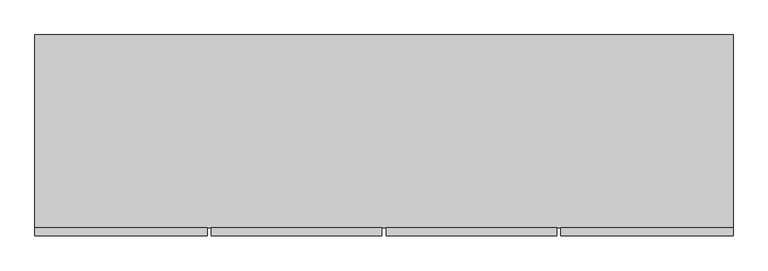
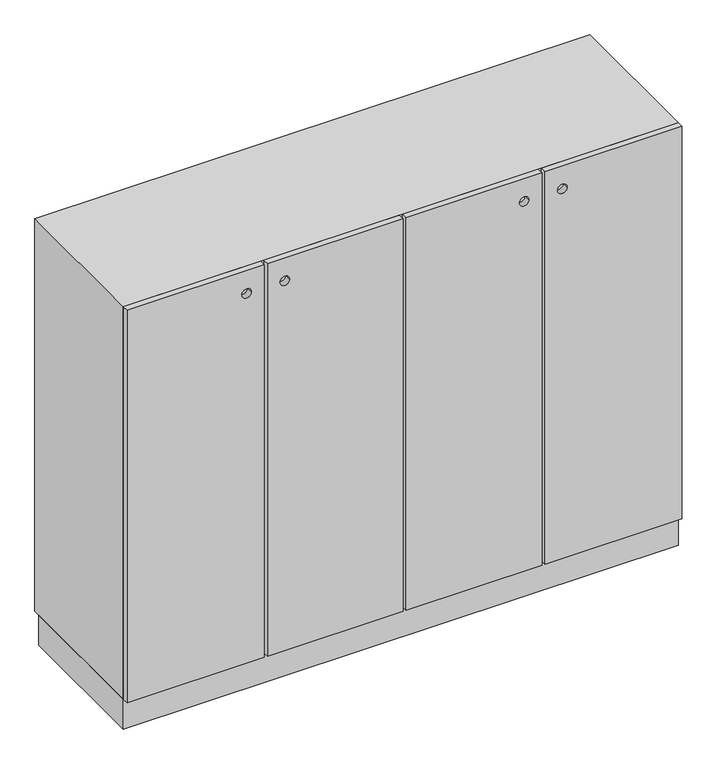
"""IFC4 building model written with IfcOpenShell, lengths in millimetres: furniture geometry, MUEBLE_EQ-09 : MUEBLE_EQ-09."""

from ifc_helpers import new_model, si_unit, point, frame, frame_2d, origin, origin_with_axes, place, context, project, spatial, polyline, circle_curve, trimmed, segment, composite_curve, outline, extrude, faceted_brep, source, transform, mapped, element, save


def furniture_ac1298f6(model_context):
    return source(origin(), model_context, "Body", "SolidModel", [
        extrude(outline(polyline([(-825.2996736, -20.0), (914.7003264, -20.0), (914.7003264, -480.0), (-825.2996736, -480.0), (-825.2996736, -20.0)])), origin_with_axes(), (0.0, 0.0, 1.0), 100.0),
        extrude(outline(polyline([(1400.0, -395.2996736), (1400.0, -825.2996736), (100.0, -825.2996736), (100.0, -395.2996736), (1400.0, -395.2996736)]), holes=[composite_curve([segment(trimmed(circle_curve(frame_2d((1325.0, -450.2996736)), 15.0), [point((1325.0, -465.2996736))], [point((1325.0, -435.2996736))], True, "CARTESIAN"), True, "CONTINUOUS"), segment(trimmed(circle_curve(frame_2d((1325.0, -450.2996736)), 15.0), [point((1325.0, -435.2996736))], [point((1325.0, -465.2996736))], True, "CARTESIAN"), True, "CONTINUOUS")], self_intersect=False)]), frame((0.0, -500.0, 0.0), z_axis=(0.0, 1.0, 0.0), x_axis=(0.0, 0.0, 1.0)), (0.0, 0.0, 1.0), 20.0),
        extrude(outline(polyline([(1400.0, 39.7003264), (1400.0, -385.2996736), (100.0, -385.2996736), (100.0, 39.7003264), (1400.0, 39.7003264)]), holes=[composite_curve([segment(trimmed(circle_curve(frame_2d((1325.0, -330.2996736)), 15.0), [point((1325.0, -345.2996736))], [point((1325.0, -315.2996736))], True, "CARTESIAN"), True, "CONTINUOUS"), segment(trimmed(circle_curve(frame_2d((1325.0, -330.2996736)), 15.0), [point((1325.0, -315.2996736))], [point((1325.0, -345.2996736))], True, "CARTESIAN"), True, "CONTINUOUS")], self_intersect=False)]), frame((0.0, -500.0, 0.0), z_axis=(0.0, 1.0, 0.0), x_axis=(0.0, 0.0, 1.0)), (0.0, 0.0, 1.0), 20.0),
        extrude(outline(polyline([(1400.0, 474.7003264), (1400.0, 49.7003264), (100.0, 49.7003264), (100.0, 474.7003264), (1400.0, 474.7003264)]), holes=[composite_curve([segment(trimmed(circle_curve(frame_2d((1325.0, 419.7003264)), 15.0), [point((1325.0, 404.7003264))], [point((1325.0, 434.7003264))], True, "CARTESIAN"), True, "CONTINUOUS"), segment(trimmed(circle_curve(frame_2d((1325.0, 419.7003264)), 15.0), [point((1325.0, 434.7003264))], [point((1325.0, 404.7003264))], True, "CARTESIAN"), True, "CONTINUOUS")], self_intersect=False)]), frame((0.0, -500.0, 0.0), z_axis=(0.0, 1.0, 0.0), x_axis=(0.0, 0.0, 1.0)), (0.0, 0.0, 1.0), 20.0),
        extrude(outline(polyline([(1400.0, 914.7003264), (1400.0, 484.7003264), (100.0, 484.7003264), (100.0, 914.7003264), (1400.0, 914.7003264)]), holes=[composite_curve([segment(trimmed(circle_curve(frame_2d((1325.0, 539.7003264)), 15.0), [point((1325.0, 524.7003264))], [point((1325.0, 554.7003264))], True, "CARTESIAN"), True, "CONTINUOUS"), segment(trimmed(circle_curve(frame_2d((1325.0, 539.7003264)), 15.0), [point((1325.0, 554.7003264))], [point((1325.0, 524.7003264))], True, "CARTESIAN"), True, "CONTINUOUS")], self_intersect=False)]), frame((0.0, -500.0, 0.0), z_axis=(0.0, 1.0, 0.0), x_axis=(0.0, 0.0, 1.0)), (0.0, 0.0, 1.0), 20.0),
        faceted_brep([(914.7003264, 0.0, 100.0), (914.7003264, -480.0, 100.0), (-825.2996736, -480.0, 100.0), (-825.2996736, 0.0, 100.0), (914.7003264, 0.0, 1400.0), (914.7003264, -480.0, 1400.0), (-825.2996736, -480.0, 1400.0), (-785.2996736, -480.0, 140.0), (-785.2996736, -480.0, 1360.0), (874.7003264, -480.0, 1360.0), (874.7003264, -480.0, 140.0), (-825.2996736, 0.0, 1400.0), (-785.2996736, -40.0, 140.0), (-785.2996736, -40.0, 1360.0), (874.7003264, -40.0, 1360.0), (874.7003264, -40.0, 140.0)], [[[0, 1, 2, 3]], [[4, 5, 1, 0]], [[5, 6, 2, 1], [7, 8, 9, 10]], [[6, 11, 3, 2]], [[11, 4, 0, 3]], [[12, 13, 8, 7]], [[14, 15, 10, 9]], [[15, 12, 7, 10]], [[13, 12, 15, 14]], [[4, 11, 6, 5]], [[13, 14, 9, 8]]]),
    ])


if __name__ == "__main__":
    model = new_model("IFC4")
    model_context = context("Model", 3, world=origin())
    ifc_project = project(units=[si_unit("LENGTHUNIT", "METRE", prefix="MILLI")], contexts=[model_context])
    site = spatial("IfcSite", under=ifc_project)
    building = spatial("IfcBuilding", under=site)
    placement = place(None, origin())
    furniture_shape = furniture_ac1298f6(model_context)
    element("IfcFurniture", 1, ObjectType="MUEBLE_EQ-09 : MUEBLE_EQ-09", at=placement, inside=building, context=model_context, shape_type="MappedRepresentation", body=[
        mapped(furniture_shape, transform((0.0, 0.0, 0.0), x_axis=(1.0, 0.0, 0.0), y_axis=(0.0, 1.0, 0.0), z_axis=(0.0, 0.0, 1.0))),
    ])
    save(model, "model.ifc")
